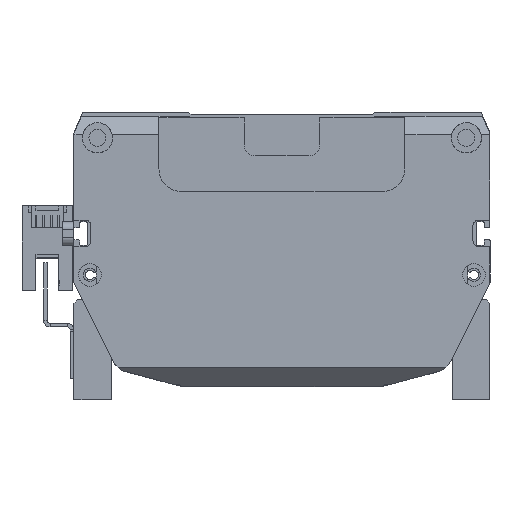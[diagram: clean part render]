
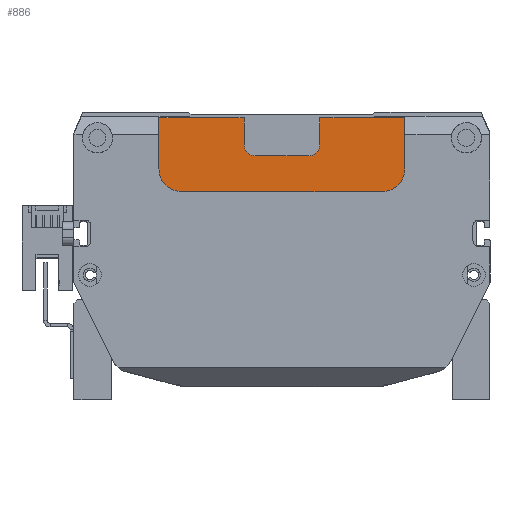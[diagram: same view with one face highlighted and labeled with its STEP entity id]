
A CAD part, front view. The second image highlights one B-rep face of the part: STEP entity #886.
In plain terms, the highlighted planar face has unit normal (0, -1, 0) as drawn and (0, 0, -1) by its records, which use the part's own axes.
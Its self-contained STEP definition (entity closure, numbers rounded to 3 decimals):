
#12 = LINE ( 'NONE', #3844, #15654 ) ;
#288 = DIRECTION ( 'NONE',  ( 1., 0., 0. ) ) ;
#407 = ORIENTED_EDGE ( 'NONE', *, *, #10276, .F. ) ;
#473 = CARTESIAN_POINT ( 'NONE',  ( 77.5, 20.179, 4.5 ) ) ;
#800 = AXIS2_PLACEMENT_3D ( 'NONE', #6039, #10530, #4369 ) ;
#886 = ADVANCED_FACE ( 'NONE', ( #11129 ), #13159, .F. ) ;
#1119 = EDGE_CURVE ( 'NONE', #13724, #17485, #15177, .T. ) ;
#1306 = LINE ( 'NONE', #15586, #4271 ) ;
#1432 = ORIENTED_EDGE ( 'NONE', *, *, #4066, .T. ) ;
#1502 = DIRECTION ( 'NONE',  ( 1., 0., 0. ) ) ;
#1974 = DIRECTION ( 'NONE',  ( 0., 0., -1. ) ) ;
#2030 = CARTESIAN_POINT ( 'NONE',  ( 41., 0.679, 4.5 ) ) ;
#2077 = CARTESIAN_POINT ( 'NONE',  ( 58., 7.679, 4.5 ) ) ;
#2166 = LINE ( 'NONE', #10400, #18775 ) ;
#2444 = DIRECTION ( 'NONE',  ( 0., -1., 0. ) ) ;
#2748 = VERTEX_POINT ( 'NONE', #15505 ) ;
#2974 = VECTOR ( 'NONE', #6005, 1000. ) ;
#3025 = VECTOR ( 'NONE', #11738, 1000. ) ;
#3105 = ORIENTED_EDGE ( 'NONE', *, *, #15572, .F. ) ;
#3118 = EDGE_CURVE ( 'NONE', #8747, #12697, #1306, .T. ) ;
#3133 = CARTESIAN_POINT ( 'NONE',  ( 24.5, 20.179, 4.5 ) ) ;
#3437 = CARTESIAN_POINT ( 'NONE',  ( 41., 0.679, 4.5 ) ) ;
#3698 = ORIENTED_EDGE ( 'NONE', *, *, #7250, .T. ) ;
#3844 = CARTESIAN_POINT ( 'NONE',  ( 10.9, 0.679, 4.5 ) ) ;
#4066 = EDGE_CURVE ( 'NONE', #13724, #18597, #12, .T. ) ;
#4219 = CARTESIAN_POINT ( 'NONE',  ( 61., 0.679, 4.5 ) ) ;
#4271 = VECTOR ( 'NONE', #1502, 1000. ) ;
#4369 = DIRECTION ( 'NONE',  ( 1., 0., 0. ) ) ;
#4395 = CARTESIAN_POINT ( 'NONE',  ( 10.9, 0.679, 4.5 ) ) ;
#4640 = VERTEX_POINT ( 'NONE', #6577 ) ;
#4768 = VERTEX_POINT ( 'NONE', #5389 ) ;
#5063 = CARTESIAN_POINT ( 'NONE',  ( 24.5, 14.179, 4.5 ) ) ;
#5159 = LINE ( 'NONE', #6282, #9369 ) ;
#5197 = DIRECTION ( 'NONE',  ( 0., 1., 0. ) ) ;
#5267 = ORIENTED_EDGE ( 'NONE', *, *, #7140, .T. ) ;
#5297 = AXIS2_PLACEMENT_3D ( 'NONE', #2077, #13231, #18084 ) ;
#5316 = DIRECTION ( 'NONE',  ( 1., 0., 0. ) ) ;
#5389 = CARTESIAN_POINT ( 'NONE',  ( 41., 7.679, 4.5 ) ) ;
#5561 = CARTESIAN_POINT ( 'NONE',  ( 27., 0.679, 4.5 ) ) ;
#5747 = VECTOR ( 'NONE', #19546, 1000. ) ;
#5939 = AXIS2_PLACEMENT_3D ( 'NONE', #6361, #16057, #288 ) ;
#6005 = DIRECTION ( 'NONE',  ( 1., 0., 0. ) ) ;
#6039 = CARTESIAN_POINT ( 'NONE',  ( 77.5, 14.179, 4.5 ) ) ;
#6267 = EDGE_CURVE ( 'NONE', #8412, #13212, #14855, .T. ) ;
#6282 = CARTESIAN_POINT ( 'NONE',  ( 18.5, 20.179, 4.5 ) ) ;
#6361 = CARTESIAN_POINT ( 'NONE',  ( 44., 7.679, 4.5 ) ) ;
#6468 = VECTOR ( 'NONE', #6578, 1000. ) ;
#6577 = CARTESIAN_POINT ( 'NONE',  ( 58., 10.679, 4.5 ) ) ;
#6578 = DIRECTION ( 'NONE',  ( 1., 0., 0. ) ) ;
#6581 = EDGE_CURVE ( 'NONE', #18597, #8412, #5159, .T. ) ;
#6920 = DIRECTION ( 'NONE',  ( 0., 0., 1. ) ) ;
#6949 = CIRCLE ( 'NONE', #5297, 3. ) ;
#7140 = EDGE_CURVE ( 'NONE', #7294, #12697, #17665, .T. ) ;
#7250 = EDGE_CURVE ( 'NONE', #14110, #7294, #8207, .T. ) ;
#7294 = VERTEX_POINT ( 'NONE', #10259 ) ;
#8207 = LINE ( 'NONE', #10394, #13944 ) ;
#8412 = VERTEX_POINT ( 'NONE', #17537 ) ;
#8527 = ORIENTED_EDGE ( 'NONE', *, *, #6581, .T. ) ;
#8537 = EDGE_CURVE ( 'NONE', #17485, #4768, #14597, .T. ) ;
#8747 = VERTEX_POINT ( 'NONE', #4219 ) ;
#8997 = EDGE_CURVE ( 'NONE', #4768, #2748, #9096, .T. ) ;
#9096 = CIRCLE ( 'NONE', #5939, 3. ) ;
#9369 = VECTOR ( 'NONE', #11018, 1000. ) ;
#9638 = CARTESIAN_POINT ( 'NONE',  ( 75., 0.679, 4.5 ) ) ;
#9692 = ORIENTED_EDGE ( 'NONE', *, *, #3118, .F. ) ;
#9699 = DIRECTION ( 'NONE',  ( 1., 0., 0. ) ) ;
#9859 = CARTESIAN_POINT ( 'NONE',  ( 83.5, 14.179, 4.5 ) ) ;
#10097 = VECTOR ( 'NONE', #5197, 1000. ) ;
#10259 = CARTESIAN_POINT ( 'NONE',  ( 83.5, 0.679, 4.5 ) ) ;
#10276 = EDGE_CURVE ( 'NONE', #4640, #13537, #6949, .T. ) ;
#10394 = CARTESIAN_POINT ( 'NONE',  ( 83.5, 20.179, 4.5 ) ) ;
#10400 = CARTESIAN_POINT ( 'NONE',  ( 61., 0.679, 4.5 ) ) ;
#10530 = DIRECTION ( 'NONE',  ( 0., 0., -1. ) ) ;
#10851 = CARTESIAN_POINT ( 'NONE',  ( 18.5, 0.679, 4.5 ) ) ;
#11018 = DIRECTION ( 'NONE',  ( 0., 1., 0. ) ) ;
#11129 = FACE_OUTER_BOUND ( 'NONE', #15889, .T. ) ;
#11527 = CARTESIAN_POINT ( 'NONE',  ( 0., 0., 4.5 ) ) ;
#11593 = CIRCLE ( 'NONE', #800, 6. ) ;
#11726 = EDGE_CURVE ( 'NONE', #13212, #20545, #13968, .T. ) ;
#11738 = DIRECTION ( 'NONE',  ( 1., 0., 0. ) ) ;
#12421 = ORIENTED_EDGE ( 'NONE', *, *, #1119, .F. ) ;
#12697 = VERTEX_POINT ( 'NONE', #9638 ) ;
#12882 = CARTESIAN_POINT ( 'NONE',  ( 58., 10.679, 4.5 ) ) ;
#12942 = EDGE_CURVE ( 'NONE', #20545, #14110, #11593, .T. ) ;
#13159 = PLANE ( 'NONE',  #15492 ) ;
#13212 = VERTEX_POINT ( 'NONE', #3133 ) ;
#13231 = DIRECTION ( 'NONE',  ( 0., 0., -1. ) ) ;
#13537 = VERTEX_POINT ( 'NONE', #16378 ) ;
#13724 = VERTEX_POINT ( 'NONE', #5561 ) ;
#13729 = AXIS2_PLACEMENT_3D ( 'NONE', #5063, #1974, #9699 ) ;
#13944 = VECTOR ( 'NONE', #2444, 1000. ) ;
#13968 = LINE ( 'NONE', #19507, #3025 ) ;
#14110 = VERTEX_POINT ( 'NONE', #9859 ) ;
#14414 = ORIENTED_EDGE ( 'NONE', *, *, #16558, .F. ) ;
#14597 = LINE ( 'NONE', #2030, #10097 ) ;
#14855 = CIRCLE ( 'NONE', #13729, 6. ) ;
#15172 = DIRECTION ( 'NONE',  ( 0., -1., 0. ) ) ;
#15177 = LINE ( 'NONE', #4395, #2974 ) ;
#15492 = AXIS2_PLACEMENT_3D ( 'NONE', #11527, #6920, #5316 ) ;
#15505 = CARTESIAN_POINT ( 'NONE',  ( 44., 10.679, 4.5 ) ) ;
#15572 = EDGE_CURVE ( 'NONE', #13537, #8747, #2166, .T. ) ;
#15586 = CARTESIAN_POINT ( 'NONE',  ( 10.9, 0.679, 4.5 ) ) ;
#15654 = VECTOR ( 'NONE', #19726, 1000. ) ;
#15889 = EDGE_LOOP ( 'NONE', ( #9692, #3105, #407, #14414, #16474, #16117, #12421, #1432, #8527, #20282, #18785, #18636, #3698, #5267 ) ) ;
#16057 = DIRECTION ( 'NONE',  ( 0., 0., -1. ) ) ;
#16117 = ORIENTED_EDGE ( 'NONE', *, *, #8537, .F. ) ;
#16378 = CARTESIAN_POINT ( 'NONE',  ( 61., 7.679, 4.5 ) ) ;
#16474 = ORIENTED_EDGE ( 'NONE', *, *, #8997, .F. ) ;
#16558 = EDGE_CURVE ( 'NONE', #2748, #4640, #16905, .T. ) ;
#16905 = LINE ( 'NONE', #12882, #6468 ) ;
#17485 = VERTEX_POINT ( 'NONE', #3437 ) ;
#17537 = CARTESIAN_POINT ( 'NONE',  ( 18.5, 14.179, 4.5 ) ) ;
#17665 = LINE ( 'NONE', #17916, #5747 ) ;
#17916 = CARTESIAN_POINT ( 'NONE',  ( 10.9, 0.679, 4.5 ) ) ;
#18084 = DIRECTION ( 'NONE',  ( 1., 0., 0. ) ) ;
#18597 = VERTEX_POINT ( 'NONE', #10851 ) ;
#18636 = ORIENTED_EDGE ( 'NONE', *, *, #12942, .T. ) ;
#18775 = VECTOR ( 'NONE', #15172, 1000. ) ;
#18785 = ORIENTED_EDGE ( 'NONE', *, *, #11726, .T. ) ;
#19507 = CARTESIAN_POINT ( 'NONE',  ( 18.5, 20.179, 4.5 ) ) ;
#19546 = DIRECTION ( 'NONE',  ( -1., 0., 0. ) ) ;
#19726 = DIRECTION ( 'NONE',  ( -1., 0., 0. ) ) ;
#20282 = ORIENTED_EDGE ( 'NONE', *, *, #6267, .T. ) ;
#20545 = VERTEX_POINT ( 'NONE', #473 ) ;
